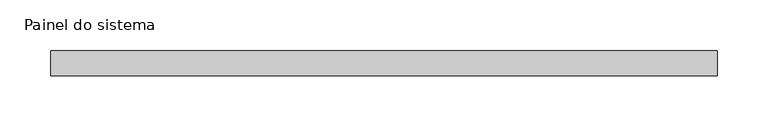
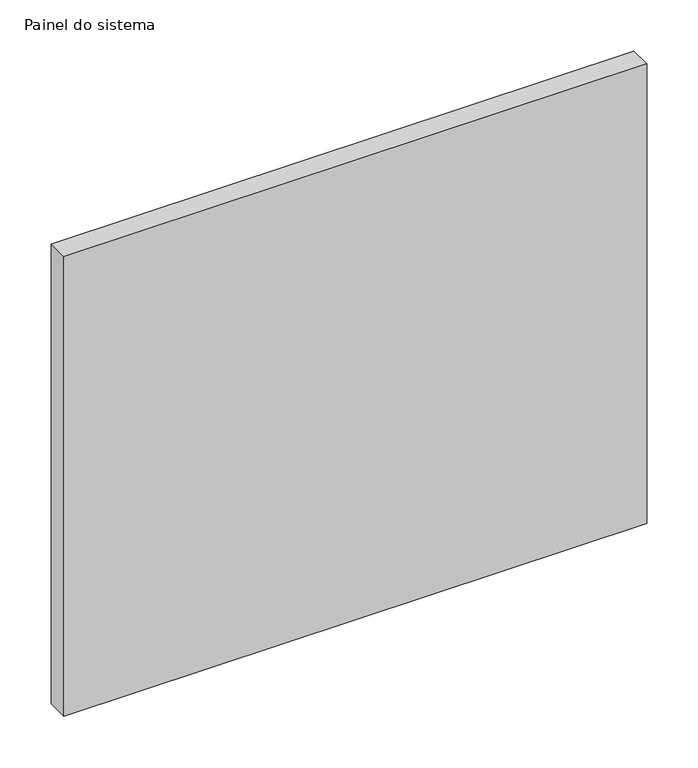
"""IFC4 building model written with IfcOpenShell, lengths in millimetres: plate geometry, Painel do sistema : Envidraçado."""

from ifc_helpers import new_model, si_unit, origin, origin_with_axes, place, context, project, spatial, polyline, outline, extrude, source, transform, mapped, element, save


def painel_do_sistema_992944ae(model_context):
    return source(origin(), model_context, "Body", "SweptSolid", [
        extrude(outline(polyline([(329.5002289, 24.5), (-329.5002289, 24.5), (-329.5002289, 49.5), (329.5002289, 49.5), (329.5002289, 24.5)])), origin_with_axes(), (0.0, 0.0, 1.0), 550.0),
    ])


if __name__ == "__main__":
    model = new_model("IFC4")
    model_context = context("Model", 3, world=origin())
    ifc_project = project(units=[si_unit("LENGTHUNIT", "METRE", prefix="MILLI")], contexts=[model_context])
    site = spatial("IfcSite", under=ifc_project)
    building = spatial("IfcBuilding", under=site)
    placement = place(None, origin())
    painel_do_sistema_shape = painel_do_sistema_992944ae(model_context)
    element("IfcPlate", 1, ObjectType="Painel do sistema : Envidraçado", at=placement, inside=building, context=model_context, shape_type="MappedRepresentation", body=[
        mapped(painel_do_sistema_shape, transform((0.0, 0.0, 0.0), x_axis=(1.0, 0.0, 0.0), y_axis=(0.0, 1.0, 0.0), z_axis=(0.0, 0.0, 1.0))),
    ])
    save(model, "model.ifc")
